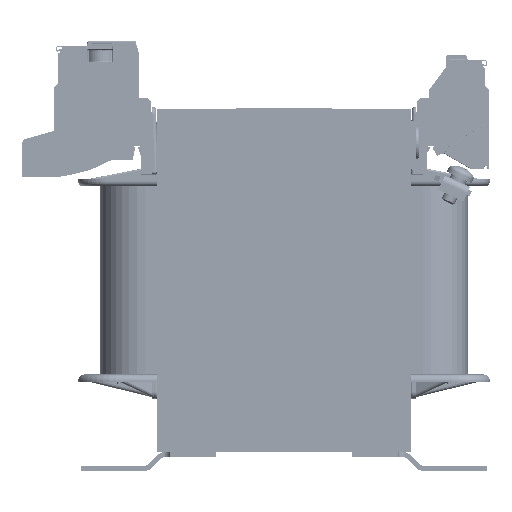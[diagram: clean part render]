
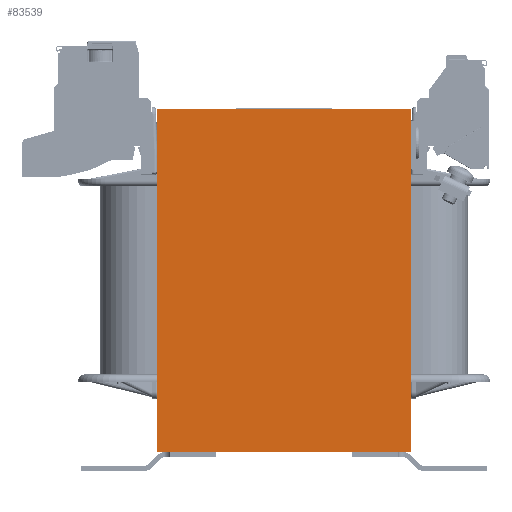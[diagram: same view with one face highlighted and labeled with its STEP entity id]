
A CAD part, left-side view. The second image highlights one B-rep face of the part: STEP entity #83539.
In plain terms, the highlighted planar face has unit normal (-1, 0, 0).
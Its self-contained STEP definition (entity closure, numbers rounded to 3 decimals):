
#1207=PLANE('',#88399);
#4809=FACE_OUTER_BOUND('',#9309,.T.);
#9309=EDGE_LOOP('',(#58088,#58089,#58090,#58091));
#14016=LINE('',#117031,#24904);
#14018=LINE('',#117036,#24906);
#14019=LINE('',#117037,#24907);
#14020=LINE('',#117038,#24908);
#24904=VECTOR('',#94423,10.);
#24906=VECTOR('',#94427,10.);
#24907=VECTOR('',#94428,10.);
#24908=VECTOR('',#94429,10.);
#37018=VERTEX_POINT('',#117028);
#37019=VERTEX_POINT('',#117030);
#37020=VERTEX_POINT('',#117034);
#37021=VERTEX_POINT('',#117035);
#45313=EDGE_CURVE('',#37019,#37018,#14016,.T.);
#45315=EDGE_CURVE('',#37020,#37021,#14018,.T.);
#45316=EDGE_CURVE('',#37021,#37019,#14019,.T.);
#45317=EDGE_CURVE('',#37020,#37018,#14020,.T.);
#58088=ORIENTED_EDGE('',*,*,#45315,.T.);
#58089=ORIENTED_EDGE('',*,*,#45316,.T.);
#58090=ORIENTED_EDGE('',*,*,#45313,.T.);
#58091=ORIENTED_EDGE('',*,*,#45317,.F.);
#83539=ADVANCED_FACE('',(#4809),#1207,.T.);
#88399=AXIS2_PLACEMENT_3D('',#117033,#94425,#94426);
#94423=DIRECTION('',(0.,0.,1.));
#94425=DIRECTION('center_axis',(-1.,0.,0.));
#94426=DIRECTION('ref_axis',(0.,0.,1.));
#94427=DIRECTION('',(0.,0.,-1.));
#94428=DIRECTION('',(0.,-1.,0.));
#94429=DIRECTION('',(0.,-1.,0.));
#117028=CARTESIAN_POINT('',(-60.,-36.85,50.));
#117030=CARTESIAN_POINT('',(-60.,-36.85,-50.));
#117031=CARTESIAN_POINT('',(-60.,-36.85,50.));
#117033=CARTESIAN_POINT('Origin',(-60.,0.,50.));
#117034=CARTESIAN_POINT('',(-60.,36.85,50.));
#117035=CARTESIAN_POINT('',(-60.,36.85,-50.));
#117036=CARTESIAN_POINT('',(-60.,36.85,50.));
#117037=CARTESIAN_POINT('',(-60.,0.,-50.));
#117038=CARTESIAN_POINT('',(-60.,0.,50.));
